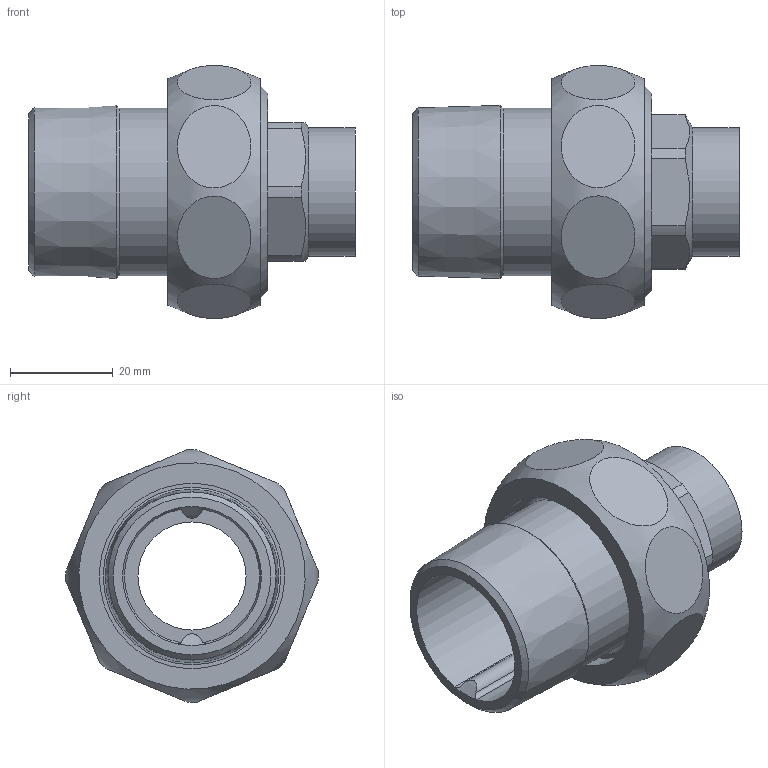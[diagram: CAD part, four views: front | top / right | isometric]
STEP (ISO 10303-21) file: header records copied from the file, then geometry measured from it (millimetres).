
FILE_DESCRIPTION((''),'2;1');
FILE_NAME('\\Lg50001\groups\SANHA Legnica\Engineering\Public\RYSUNKI\SANHA POLSKA\4341g\step\14341g_22-1(1).stp','2010-06-10T13:39:20',('pajchrowski'),(''),'Autodesk Inventor 2009','Autodesk Inventor 2009','');
FILE_SCHEMA(('AUTOMOTIVE_DESIGN { 1 0 10303 214 1 1 1 1 }'));
Length unit declared in the file: millimetre
Products named in the file (4): 14341g_22-1(1); 14382_1-114(3); 14374_114(1); 14380_22-114(1)
Assembly tree (3 placements, depth 2):
  14341g_22-1(1)
    14382_1-114(3)
    14374_114(1)
    14380_22-114(1)
Bounding box: 63.4 x 49.15 x 49.15 mm (x, y, z)
Volume: 32352.9 mm3; surface area: 20701.1 mm2
Topology: 3 solids, 3 shells, 63 faces, 129 edges, 84 vertices
Faces by surface type: plane 25, cylinder 23, cone 12, bspline 2, torus 1
Full cylindrical faces by diameter (mm): 21 x1, 22 x1, 25 x1, 32.5 x1, 35.5 x1, 36 x1, 38.5 x1, 38.952 x1, 41.91 x1
Entity records: 3183 total; most frequent: CARTESIAN_POINT 1850, DIRECTION 260, ORIENTED_EDGE 210, AXIS2_PLACEMENT_3D 117, EDGE_CURVE 105, EDGE_LOOP 102, VERTEX_POINT 81, FACE_OUTER_BOUND 63
